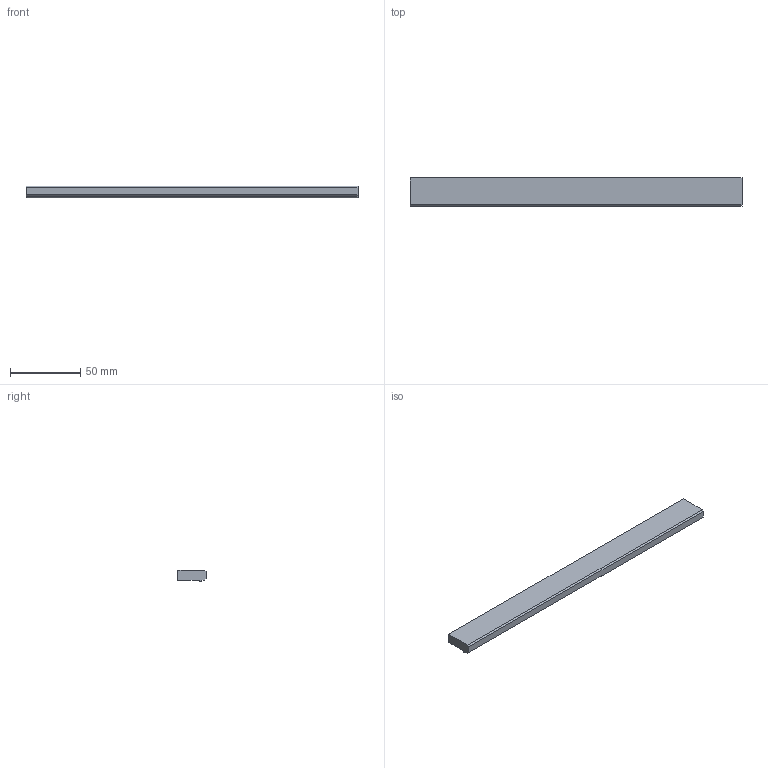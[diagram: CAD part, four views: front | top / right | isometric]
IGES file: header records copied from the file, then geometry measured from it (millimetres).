
Start section: Data from Parasolid IGES Translator 15.0.47, Copyright(c) 2006 Siemens P LM Software. All Rights Reserved.
Global section: file name: 115024.igs; native system:  By UGS Corp.; preprocessor: XPlus GENERIC/IGES 3.0; author: Noname; organization: Noname; date: 20140122.182757; units: millimetre
Bounding box: 236 x 20 x 8 mm (x, y, z)
Surface area: 13219.1 mm2 (no closed solid volume)
Topology: 0 solids, 0 shells, 14 faces, 60 edges, 58 vertices
Faces by surface type: extrusion 11, revolution 3
